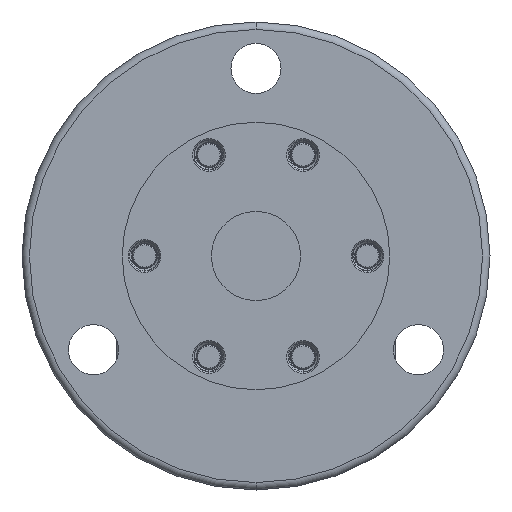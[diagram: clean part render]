
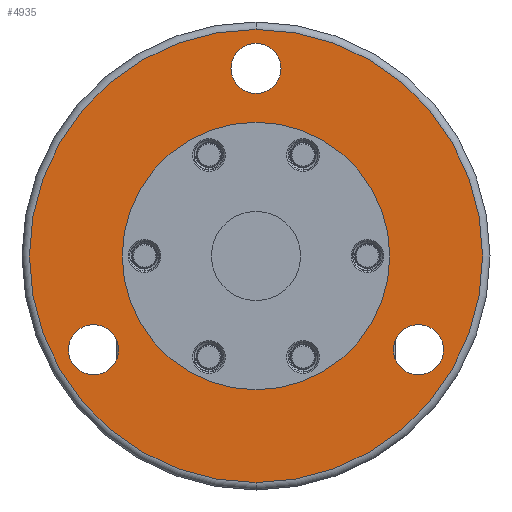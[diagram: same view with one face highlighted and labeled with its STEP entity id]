
A CAD part, front view. The second image highlights one B-rep face of the part: STEP entity #4935.
In plain terms, the highlighted planar face has unit normal (0, -1, 0).
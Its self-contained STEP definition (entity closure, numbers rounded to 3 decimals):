
#53 = CIRCLE ( 'NONE', #12088, 36. ) ;
#178 = DIRECTION ( 'NONE',  ( 0., 0., 1. ) ) ;
#202 = DIRECTION ( 'NONE',  ( -0.866, 0., -0.5 ) ) ;
#233 = DIRECTION ( 'NONE',  ( 0., -1., 0. ) ) ;
#562 = EDGE_CURVE ( 'NONE', #5507, #10590, #15524, .T. ) ;
#1252 = PLANE ( 'NONE',  #13034 ) ;
#1278 = CARTESIAN_POINT ( 'NONE',  ( 0., 0., 61. ) ) ;
#1465 = ORIENTED_EDGE ( 'NONE', *, *, #1725, .T. ) ;
#1669 = AXIS2_PLACEMENT_3D ( 'NONE', #2807, #12248, #4159 ) ;
#1725 = EDGE_CURVE ( 'NONE', #11256, #4670, #5788, .T. ) ;
#2005 = AXIS2_PLACEMENT_3D ( 'NONE', #12171, #4073, #13512 ) ;
#2123 = FACE_BOUND ( 'NONE', #6571, .T. ) ;
#2556 = FACE_BOUND ( 'NONE', #15365, .T. ) ;
#2630 = EDGE_CURVE ( 'NONE', #15491, #9533, #53, .T. ) ;
#2671 = DIRECTION ( 'NONE',  ( 0., 0., -1. ) ) ;
#2674 = CARTESIAN_POINT ( 'NONE',  ( 0., 0., 0. ) ) ;
#2807 = CARTESIAN_POINT ( 'NONE',  ( 43.734, 0., 25.25 ) ) ;
#3714 = DIRECTION ( 'NONE',  ( 0., 1., 0. ) ) ;
#4018 = DIRECTION ( 'NONE',  ( 0., 0., -1. ) ) ;
#4069 = EDGE_CURVE ( 'NONE', #4670, #11256, #7414, .T. ) ;
#4073 = DIRECTION ( 'NONE',  ( 0., 1., 0. ) ) ;
#4159 = DIRECTION ( 'NONE',  ( -0.866, 0., -0.5 ) ) ;
#4170 = EDGE_LOOP ( 'NONE', ( #11543, #5952 ) ) ;
#4670 = VERTEX_POINT ( 'NONE', #6328 ) ;
#4701 = ORIENTED_EDGE ( 'NONE', *, *, #2630, .T. ) ;
#4716 = CARTESIAN_POINT ( 'NONE',  ( 0., 0., 36. ) ) ;
#4935 = ADVANCED_FACE ( 'NONE', ( #9333, #2556, #5718, #2123, #16085 ), #1252, .T. ) ;
#4985 = CIRCLE ( 'NONE', #2005, 6.75 ) ;
#5276 = DIRECTION ( 'NONE',  ( 0., 1., 0. ) ) ;
#5507 = VERTEX_POINT ( 'NONE', #15633 ) ;
#5634 = EDGE_CURVE ( 'NONE', #10293, #9593, #16482, .T. ) ;
#5718 = FACE_BOUND ( 'NONE', #4170, .T. ) ;
#5747 = ORIENTED_EDGE ( 'NONE', *, *, #12536, .T. ) ;
#5788 = CIRCLE ( 'NONE', #13093, 6.75 ) ;
#5952 = ORIENTED_EDGE ( 'NONE', *, *, #5634, .T. ) ;
#5970 = CARTESIAN_POINT ( 'NONE',  ( 0., 0., 0. ) ) ;
#6328 = CARTESIAN_POINT ( 'NONE',  ( 37.889, 0., 21.875 ) ) ;
#6571 = EDGE_LOOP ( 'NONE', ( #6770, #16861 ) ) ;
#6770 = ORIENTED_EDGE ( 'NONE', *, *, #562, .T. ) ;
#6771 = AXIS2_PLACEMENT_3D ( 'NONE', #16375, #8278, #178 ) ;
#7240 = CARTESIAN_POINT ( 'NONE',  ( 0., 0., -36. ) ) ;
#7318 = DIRECTION ( 'NONE',  ( 0., 0., 1. ) ) ;
#7414 = CIRCLE ( 'NONE', #1669, 6.75 ) ;
#7477 = CARTESIAN_POINT ( 'NONE',  ( 0., 0., -50.5 ) ) ;
#7514 = CARTESIAN_POINT ( 'NONE',  ( 0., 0., -57.25 ) ) ;
#8278 = DIRECTION ( 'NONE',  ( 0., 1., 0. ) ) ;
#8306 = DIRECTION ( 'NONE',  ( 0., 1., 0. ) ) ;
#8343 = CARTESIAN_POINT ( 'NONE',  ( 0., 0., 0. ) ) ;
#8503 = CIRCLE ( 'NONE', #17488, 61. ) ;
#8850 = DIRECTION ( 'NONE',  ( 0., 0., 1. ) ) ;
#8979 = AXIS2_PLACEMENT_3D ( 'NONE', #11812, #3714, #13164 ) ;
#9333 = FACE_OUTER_BOUND ( 'NONE', #15208, .T. ) ;
#9533 = VERTEX_POINT ( 'NONE', #7240 ) ;
#9593 = VERTEX_POINT ( 'NONE', #11326 ) ;
#9704 = DIRECTION ( 'NONE',  ( 0., 0., -1. ) ) ;
#9814 = CIRCLE ( 'NONE', #10636, 6.75 ) ;
#10051 = VERTEX_POINT ( 'NONE', #1278 ) ;
#10293 = VERTEX_POINT ( 'NONE', #16402 ) ;
#10496 = AXIS2_PLACEMENT_3D ( 'NONE', #7477, #16931, #8850 ) ;
#10590 = VERTEX_POINT ( 'NONE', #7514 ) ;
#10636 = AXIS2_PLACEMENT_3D ( 'NONE', #13343, #5276, #14705 ) ;
#10766 = DIRECTION ( 'NONE',  ( 0., -1., 0. ) ) ;
#11256 = VERTEX_POINT ( 'NONE', #12942 ) ;
#11295 = CIRCLE ( 'NONE', #6771, 36. ) ;
#11326 = CARTESIAN_POINT ( 'NONE',  ( -37.889, 0., 21.875 ) ) ;
#11543 = ORIENTED_EDGE ( 'NONE', *, *, #11549, .T. ) ;
#11549 = EDGE_CURVE ( 'NONE', #9593, #10293, #4985, .T. ) ;
#11683 = VERTEX_POINT ( 'NONE', #12280 ) ;
#11812 = CARTESIAN_POINT ( 'NONE',  ( -43.734, 0., 25.25 ) ) ;
#12088 = AXIS2_PLACEMENT_3D ( 'NONE', #5970, #15413, #7318 ) ;
#12122 = DIRECTION ( 'NONE',  ( 0., -1., 0. ) ) ;
#12171 = CARTESIAN_POINT ( 'NONE',  ( -43.734, 0., 25.25 ) ) ;
#12248 = DIRECTION ( 'NONE',  ( 0., 1., 0. ) ) ;
#12280 = CARTESIAN_POINT ( 'NONE',  ( 0., 0., -61. ) ) ;
#12536 = EDGE_CURVE ( 'NONE', #9533, #15491, #11295, .T. ) ;
#12585 = EDGE_CURVE ( 'NONE', #11683, #10051, #14461, .T. ) ;
#12942 = CARTESIAN_POINT ( 'NONE',  ( 49.58, 0., 28.625 ) ) ;
#12988 = ORIENTED_EDGE ( 'NONE', *, *, #15043, .T. ) ;
#13034 = AXIS2_PLACEMENT_3D ( 'NONE', #14773, #10766, #2671 ) ;
#13093 = AXIS2_PLACEMENT_3D ( 'NONE', #16403, #8306, #202 ) ;
#13111 = AXIS2_PLACEMENT_3D ( 'NONE', #8343, #233, #9704 ) ;
#13157 = EDGE_CURVE ( 'NONE', #10590, #5507, #9814, .T. ) ;
#13164 = DIRECTION ( 'NONE',  ( 0.866, 0., -0.5 ) ) ;
#13343 = CARTESIAN_POINT ( 'NONE',  ( 0., 0., -50.5 ) ) ;
#13512 = DIRECTION ( 'NONE',  ( 0.866, 0., -0.5 ) ) ;
#13968 = EDGE_LOOP ( 'NONE', ( #4701, #5747 ) ) ;
#14101 = ORIENTED_EDGE ( 'NONE', *, *, #4069, .T. ) ;
#14461 = CIRCLE ( 'NONE', #13111, 61. ) ;
#14705 = DIRECTION ( 'NONE',  ( 0., 0., 1. ) ) ;
#14773 = CARTESIAN_POINT ( 'NONE',  ( -36., 0., 0. ) ) ;
#15043 = EDGE_CURVE ( 'NONE', #10051, #11683, #8503, .T. ) ;
#15208 = EDGE_LOOP ( 'NONE', ( #16863, #12988 ) ) ;
#15365 = EDGE_LOOP ( 'NONE', ( #14101, #1465 ) ) ;
#15413 = DIRECTION ( 'NONE',  ( 0., 1., 0. ) ) ;
#15491 = VERTEX_POINT ( 'NONE', #4716 ) ;
#15524 = CIRCLE ( 'NONE', #10496, 6.75 ) ;
#15633 = CARTESIAN_POINT ( 'NONE',  ( 0., 0., -43.75 ) ) ;
#16085 = FACE_BOUND ( 'NONE', #13968, .T. ) ;
#16375 = CARTESIAN_POINT ( 'NONE',  ( 0., 0., 0. ) ) ;
#16402 = CARTESIAN_POINT ( 'NONE',  ( -49.58, 0., 28.625 ) ) ;
#16403 = CARTESIAN_POINT ( 'NONE',  ( 43.734, 0., 25.25 ) ) ;
#16482 = CIRCLE ( 'NONE', #8979, 6.75 ) ;
#16861 = ORIENTED_EDGE ( 'NONE', *, *, #13157, .T. ) ;
#16863 = ORIENTED_EDGE ( 'NONE', *, *, #12585, .T. ) ;
#16931 = DIRECTION ( 'NONE',  ( 0., 1., 0. ) ) ;
#17488 = AXIS2_PLACEMENT_3D ( 'NONE', #2674, #12122, #4018 ) ;
